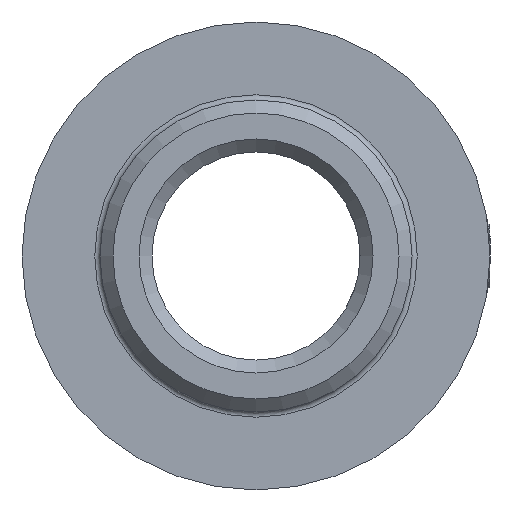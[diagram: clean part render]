
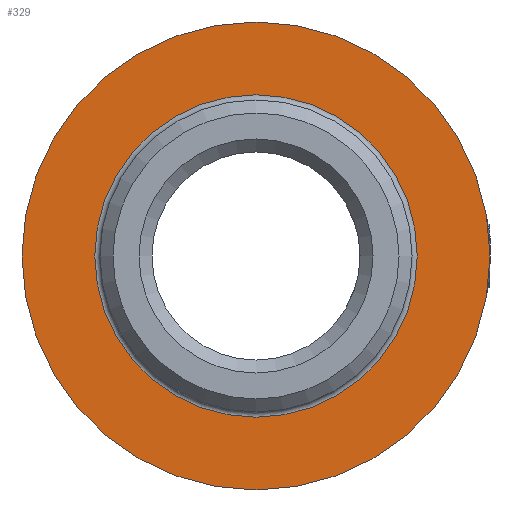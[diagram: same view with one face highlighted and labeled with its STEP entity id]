
A CAD part, front view. The second image highlights one B-rep face of the part: STEP entity #329.
In plain terms, the highlighted planar face has unit normal (0, -1, 0).
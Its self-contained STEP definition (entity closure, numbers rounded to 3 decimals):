
#58=PLANE('',#368);
#83=CIRCLE('',#365,9.);
#84=CIRCLE('',#369,6.2);
#104=FACE_BOUND('',#153,.T.);
#105=FACE_BOUND('',#154,.T.);
#153=EDGE_LOOP('',(#266));
#154=EDGE_LOOP('',(#267));
#188=VERTEX_POINT('',#592);
#189=VERTEX_POINT('',#597);
#218=EDGE_CURVE('',#188,#188,#83,.T.);
#219=EDGE_CURVE('',#189,#189,#84,.T.);
#266=ORIENTED_EDGE('',*,*,#219,.F.);
#267=ORIENTED_EDGE('',*,*,#218,.T.);
#329=ADVANCED_FACE('',(#104,#105),#58,.T.);
#365=AXIS2_PLACEMENT_3D('',#593,#427,#428);
#368=AXIS2_PLACEMENT_3D('',#596,#433,#434);
#369=AXIS2_PLACEMENT_3D('',#598,#435,#436);
#427=DIRECTION('center_axis',(0.,-1.,0.));
#428=DIRECTION('ref_axis',(1.,0.,0.));
#433=DIRECTION('center_axis',(0.,-1.,0.));
#434=DIRECTION('ref_axis',(0.,0.,-1.));
#435=DIRECTION('center_axis',(0.,-1.,0.));
#436=DIRECTION('ref_axis',(1.,0.,0.));
#592=CARTESIAN_POINT('',(9.,6.,0.));
#593=CARTESIAN_POINT('Origin',(0.,6.,0.));
#596=CARTESIAN_POINT('Origin',(7.6,6.,0.));
#597=CARTESIAN_POINT('',(6.2,6.,0.));
#598=CARTESIAN_POINT('Origin',(0.,6.,0.));
